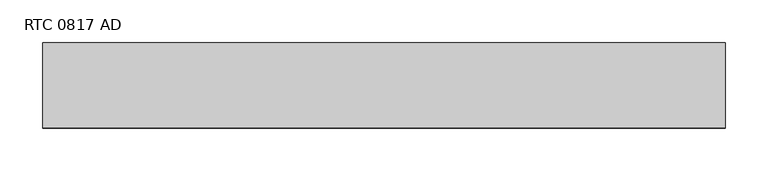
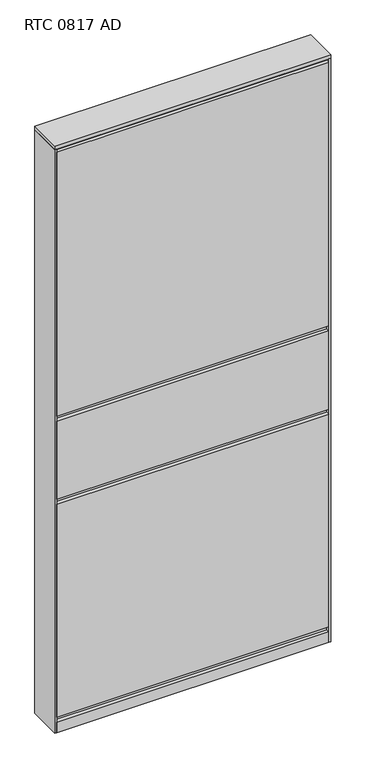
"""IFC4 building model written with IfcOpenShell, lengths in millimetres: furniture geometry, Mobiliário_MobiliáriodeEscritório_LinhaReasons_PainelCego1800mm(Acesso02Lados)-Tecido_Marelli : RTC 0817 AD."""

from ifc_helpers import new_model, si_unit, frame, origin, origin_with_axes, place, context, project, spatial, polyline, outline, extrude, source, transform, mapped, element, save


def rtc_0817_ad_4a41ce44(model_context):
    return source(origin(), model_context, "Body", "SweptSolid", [
        extrude(outline(polyline([(795.0, 100.0), (800.0, 100.0), (800.0, 0.0), (795.0, 0.0), (795.0, 100.0)])), origin_with_axes(), (0.0, 0.0, 1.0), 1789.0),
        extrude(outline(polyline([(800.0, 100.0), (800.0, 0.0), (0.0, 0.0), (0.0, 100.0), (800.0, 100.0)])), frame((0.0, 0.0, 1789.0), z_axis=(0.0, 0.0, 1.0), x_axis=(1.0, 0.0, 0.0)), (0.0, 0.0, 1.0), 11.0),
        extrude(outline(polyline([(5.0, 11.0), (5.0, 89.0), (795.0, 89.0), (795.0, 11.0), (5.0, 11.0)])), origin_with_axes(), (0.0, 0.0, 1.0), 1789.0),
        extrude(outline(polyline([(795.0, 100.0), (795.0, 89.0), (5.0, 89.0), (5.0, 100.0), (795.0, 100.0)])), origin_with_axes(), (0.0, 0.0, 1.0), 32.0),
        extrude(outline(polyline([(795.0, 11.0), (795.0, 0.0), (5.0, 0.0), (5.0, 11.0), (795.0, 11.0)])), origin_with_axes(), (0.0, 0.0, 1.0), 32.0),
        extrude(outline(polyline([(795.0, 11.0), (795.0, 0.0), (5.0, 0.0), (5.0, 11.0), (795.0, 11.0)])), frame((0.0, 0.0, 47.0), z_axis=(0.0, 0.0, 1.0), x_axis=(1.0, 0.0, 0.0)), (0.0, 0.0, 1.0), 653.0),
        extrude(outline(polyline([(795.0, 11.0), (795.0, 0.0), (5.0, 0.0), (5.0, 11.0), (795.0, 11.0)])), frame((0.0, 0.0, 715.0), z_axis=(0.0, 0.0, 1.0), x_axis=(1.0, 0.0, 0.0)), (0.0, 0.0, 1.0), 240.0),
        extrude(outline(polyline([(795.0, 100.0), (795.0, 89.0), (5.0, 89.0), (5.0, 100.0), (795.0, 100.0)])), frame((0.0, 0.0, 47.0), z_axis=(0.0, 0.0, 1.0), x_axis=(1.0, 0.0, 0.0)), (0.0, 0.0, 1.0), 653.0),
        extrude(outline(polyline([(795.0, 100.0), (795.0, 89.0), (5.0, 89.0), (5.0, 100.0), (795.0, 100.0)])), frame((0.0, 0.0, 740.0), z_axis=(0.0, 0.0, 1.0), x_axis=(1.0, 0.0, 0.0)), (0.0, 0.0, 1.0), 215.0),
        extrude(outline(polyline([(0.0, 100.0), (5.0, 100.0), (5.0, 0.0), (0.0, 0.0), (0.0, 100.0)])), origin_with_axes(), (0.0, 0.0, 1.0), 1789.0),
        extrude(outline(polyline([(795.0, 11.0), (795.0, 0.0), (5.0, 0.0), (5.0, 11.0), (795.0, 11.0)])), frame((0.0, 0.0, 970.0), z_axis=(0.0, 0.0, 1.0), x_axis=(1.0, 0.0, 0.0)), (0.0, 0.0, 1.0), 808.5),
        extrude(outline(polyline([(795.0, 100.0), (795.0, 89.0), (5.0, 89.0), (5.0, 100.0), (795.0, 100.0)])), frame((0.0, 0.0, 970.0), z_axis=(0.0, 0.0, 1.0), x_axis=(1.0, 0.0, 0.0)), (0.0, 0.0, 1.0), 808.5),
    ])


if __name__ == "__main__":
    model = new_model("IFC4")
    model_context = context("Model", 3, world=origin())
    ifc_project = project(units=[si_unit("LENGTHUNIT", "METRE", prefix="MILLI")], contexts=[model_context])
    site = spatial("IfcSite", under=ifc_project)
    building = spatial("IfcBuilding", under=site)
    placement = place(None, origin())
    rtc_0817_ad_shape = rtc_0817_ad_4a41ce44(model_context)
    element("IfcFurniture", 1, ObjectType="Mobiliário_MobiliáriodeEscritório_LinhaReasons_PainelCego1800mm(Acesso02Lados)-Tecido_Marelli : RTC 0817 AD", at=placement, inside=building, context=model_context, shape_type="MappedRepresentation", body=[
        mapped(rtc_0817_ad_shape, transform((0.0, 0.0, 0.0), x_axis=(1.0, 0.0, 0.0), y_axis=(0.0, 1.0, 0.0), z_axis=(0.0, 0.0, 1.0))),
    ])
    save(model, "model.ifc")
